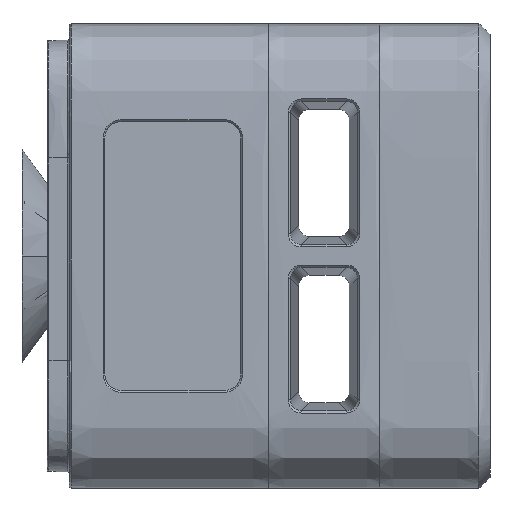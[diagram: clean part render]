
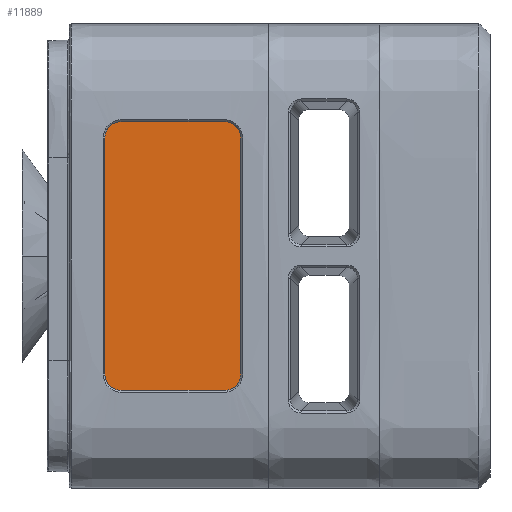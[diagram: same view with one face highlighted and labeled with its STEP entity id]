
A CAD part, left-side view. The second image highlights one B-rep face of the part: STEP entity #11889.
In plain terms, the highlighted planar face has unit normal (-1, 0, 0).
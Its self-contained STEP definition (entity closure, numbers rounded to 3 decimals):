
#3070=DIRECTION('',(0.,-1.,0.));
#3071=VECTOR('',#3070,9.3);
#3072=CARTESIAN_POINT('',(-65.168,88.7,
-49.165));
#3073=LINE('',#3072,#3071);
#3111=DIRECTION('',(0.,0.,-1.));
#3112=VECTOR('',#3111,21.3);
#3113=CARTESIAN_POINT('',(-65.168,90.2,
-26.365));
#3114=LINE('',#3113,#3112);
#3145=DIRECTION('',(0.,1.,0.));
#3146=VECTOR('',#3145,9.3);
#3147=CARTESIAN_POINT('',(-65.168,79.4,
-24.865));
#3148=LINE('',#3147,#3146);
#3193=DIRECTION('',(0.,0.,1.));
#3194=VECTOR('',#3193,21.3);
#3195=CARTESIAN_POINT('',(-65.168,77.9,
-47.665));
#3196=LINE('',#3195,#3194);
#3207=CARTESIAN_POINT('',(-65.168,79.4,
-47.665));
#3208=DIRECTION('',(1.,0.,0.));
#3209=DIRECTION('',(0.,-1.,0.));
#3210=AXIS2_PLACEMENT_3D('',#3207,#3208,#3209);
#3215=CARTESIAN_POINT('',(-65.168,88.7,
-47.665));
#3216=DIRECTION('',(1.,0.,0.));
#3217=DIRECTION('',(0.,0.,-1.));
#3218=AXIS2_PLACEMENT_3D('',#3215,#3216,#3217);
#3223=CARTESIAN_POINT('',(-65.168,88.7,
-26.365));
#3224=DIRECTION('',(1.,0.,0.));
#3225=DIRECTION('',(0.,1.,0.));
#3226=AXIS2_PLACEMENT_3D('',#3223,#3224,#3225);
#3231=CARTESIAN_POINT('',(-65.168,79.4,
-26.365));
#3232=DIRECTION('',(1.,0.,0.));
#3233=DIRECTION('',(0.,0.,1.));
#3234=AXIS2_PLACEMENT_3D('',#3231,#3232,#3233);
#3858=CARTESIAN_POINT('',(-65.168,79.4,
-49.165));
#3859=VERTEX_POINT('',#3858);
#3860=CARTESIAN_POINT('',(-65.168,77.9,
-47.665));
#3861=VERTEX_POINT('',#3860);
#3862=CARTESIAN_POINT('',(-65.168,88.7,
-49.165));
#3863=VERTEX_POINT('',#3862);
#3864=CARTESIAN_POINT('',(-65.168,90.2,
-47.665));
#3865=VERTEX_POINT('',#3864);
#3866=CARTESIAN_POINT('',(-65.168,90.2,
-26.365));
#3867=VERTEX_POINT('',#3866);
#3868=CARTESIAN_POINT('',(-65.168,88.7,
-24.865));
#3869=VERTEX_POINT('',#3868);
#3870=CARTESIAN_POINT('',(-65.168,79.4,
-24.865));
#3871=VERTEX_POINT('',#3870);
#3872=CARTESIAN_POINT('',(-65.168,77.9,
-26.365));
#3873=VERTEX_POINT('',#3872);
#11874=CARTESIAN_POINT('',(-65.168,95.4,
-58.081));
#11875=DIRECTION('',(-1.,0.,0.));
#11876=DIRECTION('',(0.,1.,0.));
#11877=AXIS2_PLACEMENT_3D('',#11874,#11875,#11876);
#11878=PLANE('',#11877);
#11879=ORIENTED_EDGE('',*,*,#11714,.T.);
#11880=ORIENTED_EDGE('',*,*,#11736,.F.);
#11881=ORIENTED_EDGE('',*,*,#11757,.T.);
#11882=ORIENTED_EDGE('',*,*,#11778,.F.);
#11883=ORIENTED_EDGE('',*,*,#11799,.T.);
#11884=ORIENTED_EDGE('',*,*,#11820,.F.);
#11885=ORIENTED_EDGE('',*,*,#11841,.T.);
#11886=ORIENTED_EDGE('',*,*,#11861,.F.);
#11887=EDGE_LOOP('',(#11879,#11880,#11881,#11882,#11883,#11884,#11885,#11886));
#11888=FACE_OUTER_BOUND('',#11887,.F.);
#11889=ADVANCED_FACE('',(#11888),#11878,.T.);
#3211=CIRCLE('',#3210,1.5);
#3219=CIRCLE('',#3218,1.5);
#3227=CIRCLE('',#3226,1.5);
#3235=CIRCLE('',#3234,1.5);
#11714=EDGE_CURVE('',#3861,#3859,#3211,.T.);
#11736=EDGE_CURVE('',#3863,#3859,#3073,.T.);
#11757=EDGE_CURVE('',#3863,#3865,#3219,.T.);
#11778=EDGE_CURVE('',#3867,#3865,#3114,.T.);
#11799=EDGE_CURVE('',#3867,#3869,#3227,.T.);
#11820=EDGE_CURVE('',#3871,#3869,#3148,.T.);
#11841=EDGE_CURVE('',#3871,#3873,#3235,.T.);
#11861=EDGE_CURVE('',#3861,#3873,#3196,.T.);
